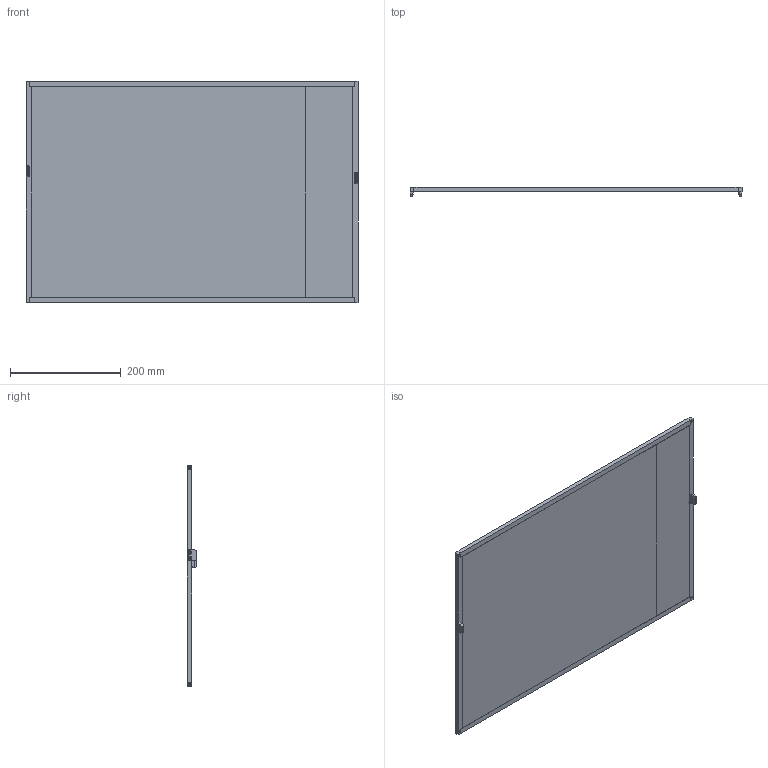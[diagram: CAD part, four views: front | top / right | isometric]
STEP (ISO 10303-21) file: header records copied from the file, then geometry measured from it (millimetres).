
FILE_DESCRIPTION (( 'STEP AP203' ), '1' );
FILE_NAME ('VT02303.STEP', '2016-07-12T07:38:35', ( '' ), ( '' ), 'SwSTEP 2.0', 'SolidWorks 2016', '' );
FILE_SCHEMA (( 'CONFIG_CONTROL_DESIGN' ));
Length unit declared in the file: millimetre
Products named in the file (1): VT02303
Bounding box: 599.75 x 17.5 x 399.75 mm (x, y, z)
Volume: 1777612.8 mm3; surface area: 535280.5 mm2
Topology: 16 solids, 16 shells, 384 faces, 892 edges, 544 vertices
Faces by surface type: plane 222, cylinder 90, cone 40, bspline 32
Entity records: 11591 total; most frequent: CARTESIAN_POINT 2893, DIRECTION 1806, ORIENTED_EDGE 1736, EDGE_CURVE 868, AXIS2_PLACEMENT_3D 625, VECTOR 556, LINE 556, VERTEX_POINT 544
